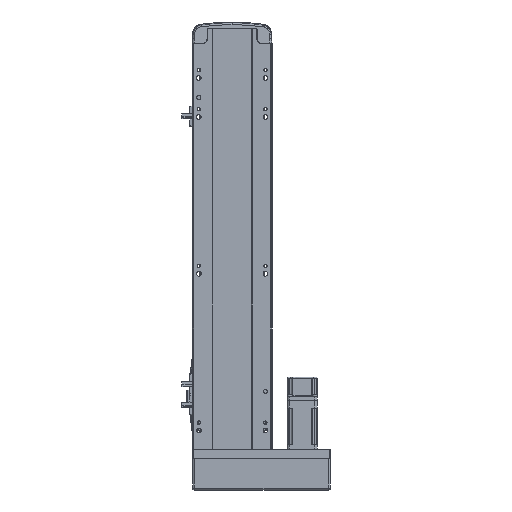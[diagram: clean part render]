
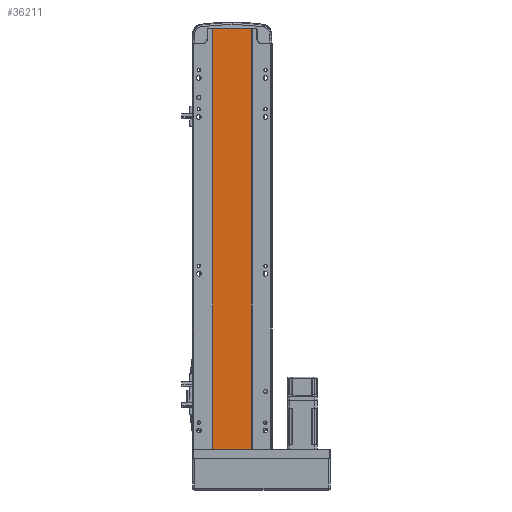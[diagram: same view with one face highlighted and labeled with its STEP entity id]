
A CAD part, front view. The second image highlights one B-rep face of the part: STEP entity #36211.
In plain terms, the highlighted planar face has unit normal (0, -1, 0).
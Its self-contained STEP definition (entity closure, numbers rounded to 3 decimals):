
#1393 = VECTOR ( 'NONE', #47490, 1000. ) ;
#2973 = ORIENTED_EDGE ( 'NONE', *, *, #53983, .F. ) ;
#3142 = FACE_OUTER_BOUND ( 'NONE', #42017, .T. ) ;
#7880 = DIRECTION ( 'NONE',  ( 0., 0., 1. ) ) ;
#9991 = VERTEX_POINT ( 'NONE', #40611 ) ;
#12171 = ORIENTED_EDGE ( 'NONE', *, *, #45407, .T. ) ;
#12184 = CARTESIAN_POINT ( 'NONE',  ( 0., 2., 537. ) ) ;
#14592 = LINE ( 'NONE', #38270, #1393 ) ;
#15976 = CARTESIAN_POINT ( 'NONE',  ( -24.5, 2., 537. ) ) ;
#17418 = CARTESIAN_POINT ( 'NONE',  ( -24.5, 2., 537. ) ) ;
#20799 = LINE ( 'NONE', #46630, #47118 ) ;
#21125 = CARTESIAN_POINT ( 'NONE',  ( 24.5, 2., 0. ) ) ;
#21175 = VERTEX_POINT ( 'NONE', #42425 ) ;
#22654 = DIRECTION ( 'NONE',  ( 0., 0., -1. ) ) ;
#24819 = DIRECTION ( 'NONE',  ( 1., 0., 0. ) ) ;
#25446 = AXIS2_PLACEMENT_3D ( 'NONE', #12184, #30072, #7880 ) ;
#25869 = CARTESIAN_POINT ( 'NONE',  ( -24.5, 2., 537. ) ) ;
#26424 = VERTEX_POINT ( 'NONE', #15976 ) ;
#30072 = DIRECTION ( 'NONE',  ( 0., 1., 0. ) ) ;
#30870 = VERTEX_POINT ( 'NONE', #21125 ) ;
#36211 = ADVANCED_FACE ( 'NONE', ( #3142 ), #38776, .F. ) ;
#37477 = EDGE_CURVE ( 'NONE', #26424, #9991, #47410, .T. ) ;
#37607 = LINE ( 'NONE', #25869, #43113 ) ;
#38270 = CARTESIAN_POINT ( 'NONE',  ( 24.5, 2., 537. ) ) ;
#38273 = DIRECTION ( 'NONE',  ( 1., 0., 0. ) ) ;
#38776 = PLANE ( 'NONE',  #25446 ) ;
#39118 = VECTOR ( 'NONE', #22654, 1000. ) ;
#40611 = CARTESIAN_POINT ( 'NONE',  ( -24.5, 2., 0. ) ) ;
#41648 = ORIENTED_EDGE ( 'NONE', *, *, #53118, .F. ) ;
#42017 = EDGE_LOOP ( 'NONE', ( #12171, #2973, #41648, #47638 ) ) ;
#42425 = CARTESIAN_POINT ( 'NONE',  ( 24.5, 2., 537. ) ) ;
#43113 = VECTOR ( 'NONE', #38273, 1000. ) ;
#45407 = EDGE_CURVE ( 'NONE', #9991, #30870, #20799, .T. ) ;
#46630 = CARTESIAN_POINT ( 'NONE',  ( 0., 2., 0. ) ) ;
#47118 = VECTOR ( 'NONE', #24819, 1000. ) ;
#47410 = LINE ( 'NONE', #17418, #39118 ) ;
#47490 = DIRECTION ( 'NONE',  ( 0., 0., -1. ) ) ;
#47638 = ORIENTED_EDGE ( 'NONE', *, *, #37477, .T. ) ;
#53118 = EDGE_CURVE ( 'NONE', #26424, #21175, #37607, .T. ) ;
#53983 = EDGE_CURVE ( 'NONE', #21175, #30870, #14592, .T. ) ;
